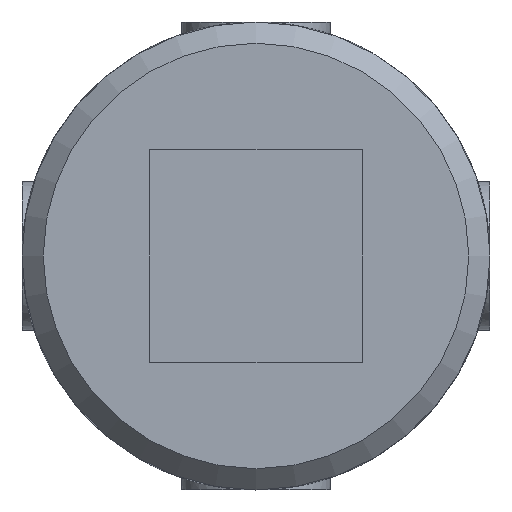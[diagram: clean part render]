
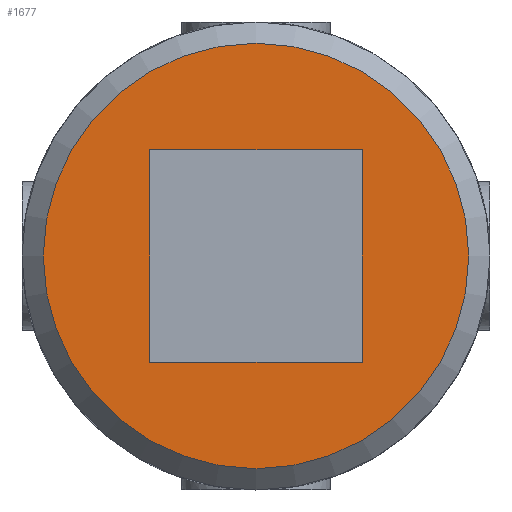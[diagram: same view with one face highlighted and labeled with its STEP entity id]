
A CAD part, front view. The second image highlights one B-rep face of the part: STEP entity #1677.
In plain terms, the highlighted planar face has unit normal (0, -1, 0).
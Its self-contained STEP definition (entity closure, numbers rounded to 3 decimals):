
#129=LINE('',#3162,#193);
#133=LINE('',#3185,#197);
#139=LINE('',#3223,#203);
#142=LINE('',#3243,#206);
#193=VECTOR('',#2176,10.);
#197=VECTOR('',#2184,10.);
#203=VECTOR('',#2192,10.);
#206=VECTOR('',#2199,10.);
#312=FACE_BOUND('',#567,.T.);
#432=FACE_OUTER_BOUND('',#566,.T.);
#566=EDGE_LOOP('',(#1425));
#567=EDGE_LOOP('',(#1426,#1427,#1428,#1429));
#656=CIRCLE('',#1845,10.);
#778=VERTEX_POINT('',#3159);
#779=VERTEX_POINT('',#3161);
#785=VERTEX_POINT('',#3184);
#794=VERTEX_POINT('',#3221);
#801=VERTEX_POINT('',#3298);
#983=EDGE_CURVE('',#779,#778,#129,.T.);
#990=EDGE_CURVE('',#785,#779,#133,.T.);
#1000=EDGE_CURVE('',#778,#794,#139,.T.);
#1006=EDGE_CURVE('',#794,#785,#142,.T.);
#1017=EDGE_CURVE('',#801,#801,#656,.T.);
#1425=ORIENTED_EDGE('',*,*,#1017,.F.);
#1426=ORIENTED_EDGE('',*,*,#983,.T.);
#1427=ORIENTED_EDGE('',*,*,#1000,.T.);
#1428=ORIENTED_EDGE('',*,*,#1006,.T.);
#1429=ORIENTED_EDGE('',*,*,#990,.T.);
#1585=PLANE('',#1847);
#1677=ADVANCED_FACE('',(#432,#312),#1585,.F.);
#1845=AXIS2_PLACEMENT_3D('',#3299,#2228,#2229);
#1847=AXIS2_PLACEMENT_3D('',#3475,#2236,#2237);
#2176=DIRECTION('',(0.,0.,-1.));
#2184=DIRECTION('',(1.,0.,0.));
#2192=DIRECTION('',(-1.,0.,0.));
#2199=DIRECTION('',(0.,0.,1.));
#2228=DIRECTION('center_axis',(0.,1.,0.));
#2229=DIRECTION('ref_axis',(1.,0.,0.));
#2236=DIRECTION('center_axis',(0.,1.,0.));
#2237=DIRECTION('ref_axis',(0.,0.,1.));
#3159=CARTESIAN_POINT('',(5.,-29.5,-5.));
#3161=CARTESIAN_POINT('',(5.,-29.5,5.));
#3162=CARTESIAN_POINT('',(5.,-29.5,2.5));
#3184=CARTESIAN_POINT('',(-5.,-29.5,5.));
#3185=CARTESIAN_POINT('',(-2.5,-29.5,5.));
#3221=CARTESIAN_POINT('',(-5.,-29.5,-5.));
#3223=CARTESIAN_POINT('',(2.5,-29.5,-5.));
#3243=CARTESIAN_POINT('',(-5.,-29.5,-2.5));
#3298=CARTESIAN_POINT('',(-10.,-29.5,0.));
#3299=CARTESIAN_POINT('Origin',(0.,-29.5,0.));
#3475=CARTESIAN_POINT('Origin',(0.,-29.5,0.));
